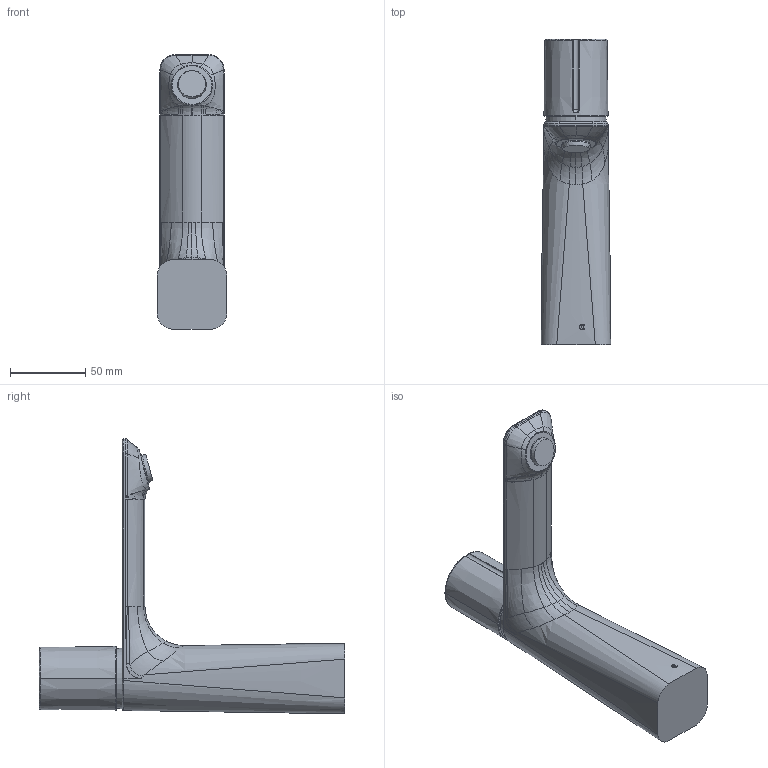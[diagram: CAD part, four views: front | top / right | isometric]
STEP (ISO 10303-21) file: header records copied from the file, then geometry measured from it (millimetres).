
FILE_DESCRIPTION((''),'2;1');
FILE_NAME('509541_140_SW0001','2021-10-20T14:18:45',('KS894'),(''),'CREO PARAMETRIC BY PTC INC, 2018500','CREO PARAMETRIC BY PTC INC, 2018500','');
FILE_SCHEMA(('CONFIG_CONTROL_DESIGN'));
Length unit declared in the file: millimetre
Products named in the file (1): 509541_140_SW0001
Bounding box: 46.2 x 202.65 x 182.1 mm (x, y, z)
Volume: 404974.1 mm3; surface area: 46719.3 mm2
Topology: 1 solids, 1 shells, 155 faces, 354 edges, 206 vertices
Faces by surface type: bspline 119, plane 12, cylinder 11, torus 7, cone 4, sphere 2
Entity records: 12400 total; most frequent: CARTESIAN_POINT 9674, ORIENTED_EDGE 708, EDGE_CURVE 354, DIRECTION 318, B_SPLINE_CURVE_WITH_KNOTS 210, VERTEX_POINT 206, EDGE_LOOP 160, FACE_OUTER_BOUND 155
